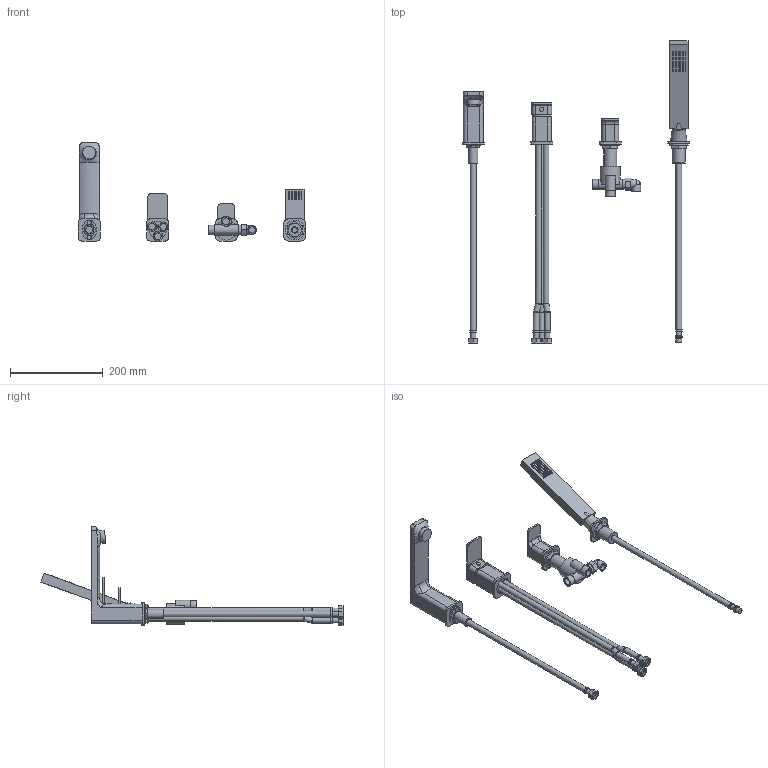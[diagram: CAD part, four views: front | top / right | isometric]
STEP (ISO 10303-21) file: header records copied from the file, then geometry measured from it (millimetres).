
FILE_DESCRIPTION(/* description */ ('LOFT Bateria 4-otworowa stojąca'),/* implementation_level */ '2;1');
FILE_NAME(/* name */ 'C:\Nextcloud\02_biblioteki_cad\Valvex\Projekt\PROJECTS\Eksport\ETAP 2\2454890\2454890.stp',/* time_stamp */ '2021-08-02T11:32:49+02:00',/* author */ ('Gabriela W.'),/* organization */ (''),/* preprocessor_version */ 'ST-DEVELOPER v18.1',/* originating_system */ 'Autodesk Inventor 2020',/* authorisation */ '');
FILE_SCHEMA (('AUTOMOTIVE_DESIGN { 1 0 10303 214 3 1 1 }'));
Length unit declared in the file: millimetre
Products named in the file (5): 2454890; 2454890_gałka; 2454890_1; 2454890_2; 2454730
Assembly tree (4 placements, depth 2):
  2454890
    2454890_gałka
    2454890_1
    2454890_2
    2454730
Bounding box: 492 x 652.66 x 213.61 mm (x, y, z)
Volume: 1169461.5 mm3; surface area: 236955.4 mm2
Topology: 52 solids, 53 shells, 539 faces, 1234 edges, 833 vertices
Faces by surface type: plane 422, cylinder 95, bspline 11, torus 7, cone 2, sphere 2
Full cylindrical faces by diameter (mm): 9 x1, 11 x5, 12 x12, 14 x7, 15 x7, 18 x1, 19 x2, 20 x1, 21 x3, 22 x2, 28 x3, 37 x1, 42 x2, 44 x1
Entity records: 18182 total; most frequent: CARTESIAN_POINT 5525, DIRECTION 2591, ORIENTED_EDGE 2438, EDGE_CURVE 1220, LINE 885, VECTOR 885, AXIS2_PLACEMENT_3D 853, VERTEX_POINT 833
